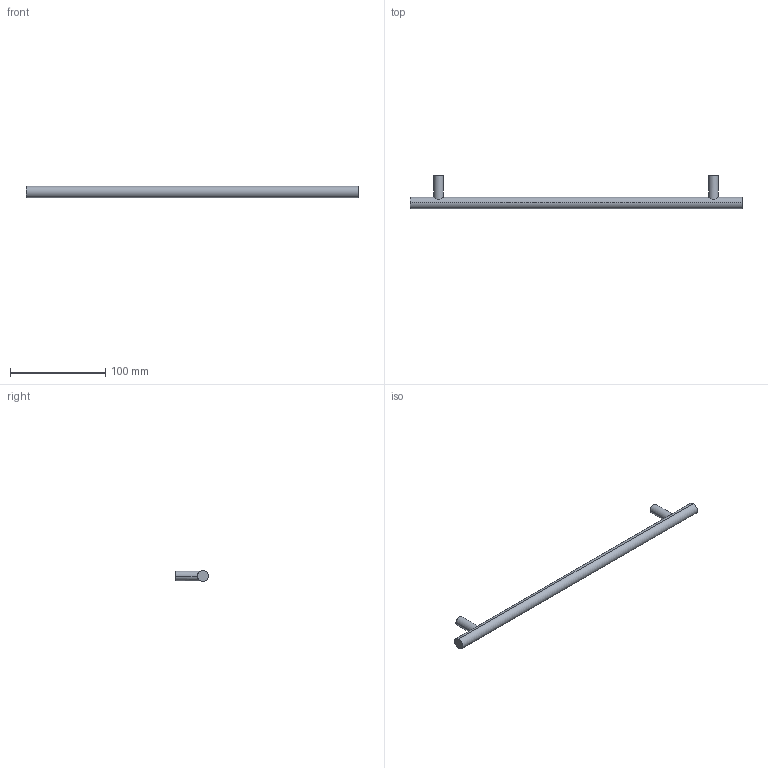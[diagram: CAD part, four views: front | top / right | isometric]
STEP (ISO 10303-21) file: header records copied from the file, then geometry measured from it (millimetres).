
FILE_DESCRIPTION( ( '' ), '1' );
FILE_NAME( 'D:/1.AUTOCAD EXPORT/Group 10/sheet_10_1/9071020.stp', '2013-10-21T10:12:55', ( '' ), ( '' ), ' ', ' ', ' ' );
FILE_SCHEMA( ( 'automotive_design' ) );
Length unit declared in the file: millimetre
Products named in the file (1): 1
Bounding box: 348 x 35 x 12 mm (x, y, z)
Volume: 42760.3 mm3; surface area: 15150.9 mm2
Topology: 1 solids, 1 shells, 16 faces, 32 edges, 22 vertices
Faces by surface type: cylinder 10, plane 6
Entity records: 972 total; most frequent: CARTESIAN_POINT 205, DIRECTION 76, STYLED_ITEM 71, PRESENTATION_STYLE_ASSIGNMENT 71, COLOUR_RGB 71, ORIENTED_EDGE 64, AXIS2_PLACEMENT_3D 33, EDGE_CURVE 32
